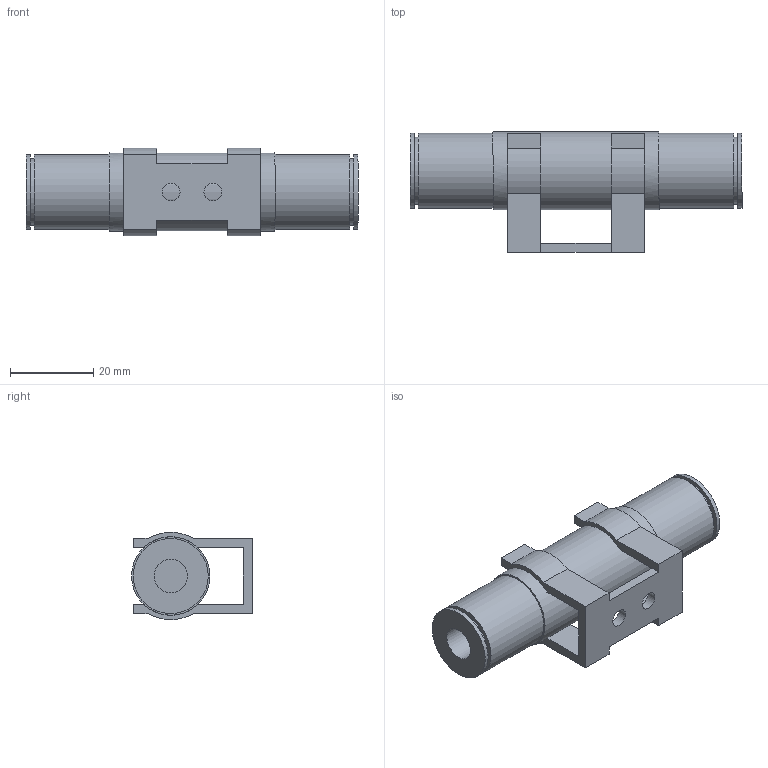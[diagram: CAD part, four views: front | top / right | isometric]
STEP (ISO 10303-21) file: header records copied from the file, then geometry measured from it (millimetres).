
FILE_DESCRIPTION(('STEP AP203'),'1');
FILE_NAME('BCVL-1508-C.stp','2025-07-18T01:00:45',(' '),(' '),'Spatial InterOp 3D',' ',' ');
FILE_SCHEMA(('CONFIG_CONTROL_DESIGN'));
Length unit declared in the file: millimetre
Products named in the file (1): 1
Bounding box: 79.6 x 29 x 20.94 mm (x, y, z)
Volume: 21666.9 mm3; surface area: 8822.3 mm2
Topology: 1 solids, 1 shells, 55 faces, 137 edges, 90 vertices
Faces by surface type: plane 40, cylinder 15
Full cylindrical faces by diameter (mm): 4.3 x2, 8 x2, 16 x2, 18 x4, 18.8 x1
Entity records: 1646 total; most frequent: DIRECTION 276, CARTESIAN_POINT 272, ORIENTED_EDGE 252, EDGE_CURVE 126, AXIS2_PLACEMENT_3D 94, VERTEX_POINT 90, LINE 88, VECTOR 88
